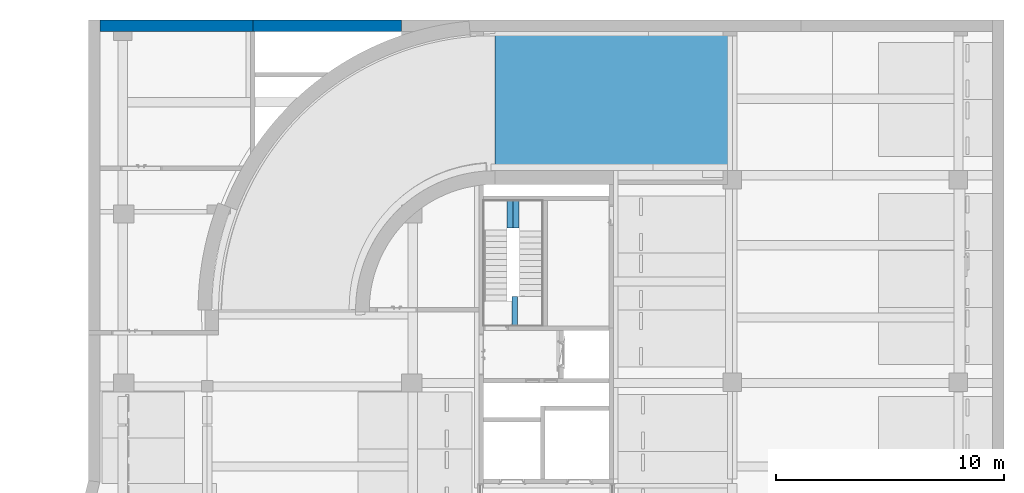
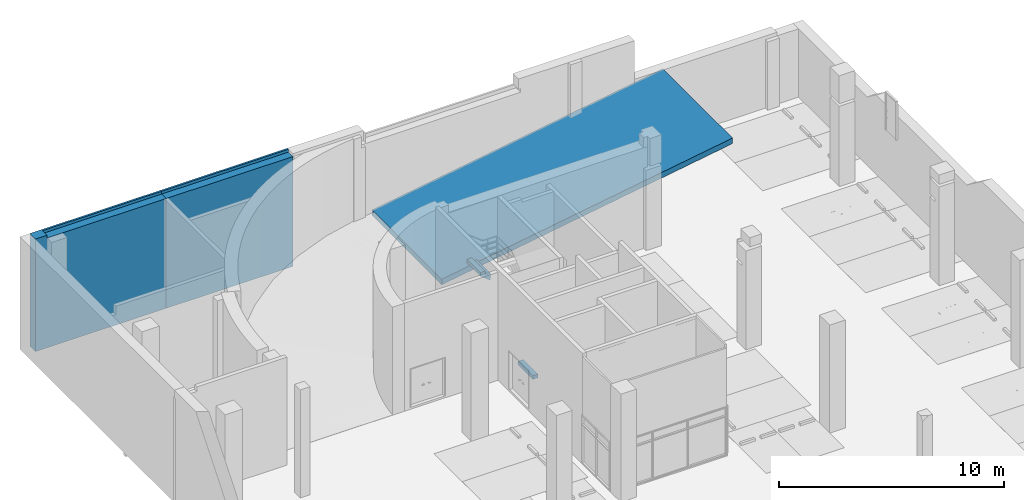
# One storey, part 15 of 29: 2 stair flights, 2 walls, 1 ramp, 1 element without a shape of its own.
"""IFC2X3 building model written with IfcOpenShell, lengths in millimetres."""

from ifc_helpers import new_model, entity, si_unit, converted_unit, derived_unit, direction, frame, frame_2d, origin, place, context, subcontext, project, spatial, polyline, rectangle, outline, extrude, clip, halfspace, faceted_brep, material, layer, layer_set, layer_usage, type_object, element, aggregate, save


model = new_model("IFC2X3")

# Units and contexts
model_context = context("Model", 3, precision=0.01, world=origin(), true_north=direction((6.123031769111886e-17, 1.0)))
body_context = subcontext(model_context, "Body", "Model", "MODEL_VIEW")
ifc_project = project(units=[si_unit("LENGTHUNIT", "METRE", prefix="MILLI"), si_unit("AREAUNIT", "SQUARE_METRE"), si_unit("VOLUMEUNIT", "CUBIC_METRE"), converted_unit("PLANEANGLEUNIT", "DEGREE", entity("IfcRatioMeasure", 0.017453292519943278), si_unit("PLANEANGLEUNIT", "RADIAN"), dimensions=[0, 0, 0, 0, 0, 0, 0]), si_unit("MASSUNIT", "GRAM", prefix="KILO"), derived_unit("MASSDENSITYUNIT", [(si_unit("MASSUNIT", "GRAM", prefix="KILO"), 1), (si_unit("LENGTHUNIT", "METRE"), -3)]), derived_unit("MOMENTOFINERTIAUNIT", [(si_unit("LENGTHUNIT", "METRE"), 4)]), si_unit("TIMEUNIT", "SECOND"), si_unit("FREQUENCYUNIT", "HERTZ"), si_unit("THERMODYNAMICTEMPERATUREUNIT", "DEGREE_CELSIUS"), derived_unit("THERMALTRANSMITTANCEUNIT", [(si_unit("MASSUNIT", "GRAM", prefix="KILO"), 1), (si_unit("THERMODYNAMICTEMPERATUREUNIT", "KELVIN"), -1), (si_unit("TIMEUNIT", "SECOND"), -3)]), derived_unit("VOLUMETRICFLOWRATEUNIT", [(si_unit("LENGTHUNIT", "METRE"), 3), (si_unit("TIMEUNIT", "SECOND"), -1)]), derived_unit("MASSFLOWRATEUNIT", [(si_unit("MASSUNIT", "GRAM", prefix="KILO"), 1), (si_unit("TIMEUNIT", "SECOND"), -1)]), derived_unit("ROTATIONALFREQUENCYUNIT", [(si_unit("TIMEUNIT", "SECOND"), -1)]), si_unit("ELECTRICCURRENTUNIT", "AMPERE"), si_unit("ELECTRICVOLTAGEUNIT", "VOLT"), si_unit("POWERUNIT", "WATT"), si_unit("FORCEUNIT", "NEWTON", prefix="KILO"), si_unit("ILLUMINANCEUNIT", "LUX"), si_unit("LUMINOUSFLUXUNIT", "LUMEN"), si_unit("LUMINOUSINTENSITYUNIT", "CANDELA"), derived_unit("USERDEFINED", [(si_unit("MASSUNIT", "GRAM", prefix="KILO"), -1), (si_unit("LENGTHUNIT", "METRE"), -2), (si_unit("TIMEUNIT", "SECOND"), 3), (si_unit("LUMINOUSFLUXUNIT", "LUMEN"), 1)]), derived_unit("SOUNDPOWERUNIT", [(si_unit("MASSUNIT", "GRAM", prefix="KILO"), 1), (si_unit("LENGTHUNIT", "METRE"), 2), (si_unit("TIMEUNIT", "SECOND"), -3)]), derived_unit("SOUNDPRESSUREUNIT", [(si_unit("MASSUNIT", "GRAM", prefix="KILO"), 1), (si_unit("LENGTHUNIT", "METRE"), -1), (si_unit("TIMEUNIT", "SECOND"), -2)]), derived_unit("LINEARVELOCITYUNIT", [(si_unit("LENGTHUNIT", "METRE"), 1), (si_unit("TIMEUNIT", "SECOND"), -1)]), si_unit("PRESSUREUNIT", "PASCAL"), derived_unit("USERDEFINED", [(si_unit("LENGTHUNIT", "METRE"), -2), (si_unit("MASSUNIT", "GRAM", prefix="KILO"), 1), (si_unit("TIMEUNIT", "SECOND"), -2)]), derived_unit("LINEARFORCEUNIT", [(si_unit("MASSUNIT", "GRAM", prefix="KILO"), 1), (si_unit("LENGTHUNIT", "METRE"), 1), (si_unit("TIMEUNIT", "SECOND"), -2), (si_unit("LENGTHUNIT", "METRE"), -1)]), derived_unit("PLANARFORCEUNIT", [(si_unit("MASSUNIT", "GRAM", prefix="KILO"), 1), (si_unit("LENGTHUNIT", "METRE"), 1), (si_unit("TIMEUNIT", "SECOND"), -2), (si_unit("LENGTHUNIT", "METRE"), -2)])], contexts=[model_context])

# Site, building, storey
site_placement = place(None, frame((-14167.972527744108, -657.2125860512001, 0.0)))
site = spatial("IfcSite", under=ifc_project, at=site_placement, Name="Default", CompositionType="ELEMENT")
building_placement = place(site_placement, origin())
building = spatial("IfcBuilding", under=site, at=building_placement, Name="Sample Building", CompositionType="ELEMENT")
storey_placement = place(building_placement, frame((0.0, 0.0, -6100.0)))
storey = spatial("IfcBuildingStorey", under=building, at=storey_placement, Name="지하1층", CompositionType="ELEMENT", Elevation=-6099.999999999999)

# Walls
ifc_material = material(Name="KBIMS-콘크리트")
ifc_layer_1 = layer(ifc_material, 500.00000000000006)
ifc_layer_set_1 = layer_set([ifc_layer_1], Name="기본 벽:WA111-철근콘크리트구조 벽 500mm_BW5")
wall_type = type_object("IfcWallType", Name="기본 벽:WA111-철근콘크리트구조 벽 500mm_BW5", PredefinedType="STANDARD", material=ifc_layer_set_1)
wall_1_placement = place(storey_placement, frame((13467.972491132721, 35607.21230798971, 0.0)))
element("IfcWall", 1, at=wall_1_placement, inside=storey, type_object=wall_type, Name="기본 벽:WA111-철근콘크리트구조 벽 500mm_BW5", ObjectType="기본 벽:WA111-철근콘크리트구조 벽 500mm_BW5", context=body_context, shape_type="Brep", body=[
    faceted_brep([(0.0, -250.0, 0.0), (599.9826140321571, -250.0, 0.0), (1399.9826140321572, -250.0, 0.0), (6600.0, -250.0, 0.0), (6700.0, -250.0, 0.0), (6700.0, -250.0, 5950.0), (6600.0, -250.0, 5950.0), (4995.688282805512, -250.0, 5950.0), (4594.876294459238, -250.0, 5950.0), (4512.317982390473, -250.0, 5950.0), (1399.9826140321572, -250.0, 5950.0), (599.9999633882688, -250.0, 5950.0), (599.9999633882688, -250.0, 6100.0), (0.0, -250.0, 6100.0), (0.0, -250.0, 160.0), (6700.0, 250.0, 0.0), (0.0, 250.0, 0.0), (0.0, 250.0, 6100.0), (4563.001294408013, 250.0, 6100.0), (4963.813282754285, 250.0, 6100.0), (6700.0, 250.0, 6100.0), (599.9999633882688, 149.99998715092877, 6100.0), (6700.0, 149.99998715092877, 6100.0), (6700.0, 149.99998715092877, 5950.0), (599.9999633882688, 149.99998715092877, 5950.0)], [[[0, 1, 2, 3, 4, 5, 6, 7, 8, 9, 10, 11, 12, 13, 14]], [[15, 16, 17, 18, 19, 20]], [[4, 3, 2, 1, 0, 16, 15]], [[20, 19, 18, 17, 13, 12, 21, 22]], [[0, 14, 13, 17, 16]], [[4, 15, 20, 22, 23, 5]], [[24, 11, 10, 9, 8, 7, 6, 5, 23]], [[24, 21, 12, 11]], [[21, 24, 23, 22]]]),
])
wall_2_placement = place(storey_placement, frame((20167.97249113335, 35607.21230798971, 0.0)))
element("IfcWall", 2, at=wall_2_placement, inside=storey, type_object=wall_type, Name="기본 벽:WA111-철근콘크리트구조 벽 500mm_BW5", ObjectType="기본 벽:WA111-철근콘크리트구조 벽 500mm_BW5", context=body_context, shape_type="Brep", body=[
    faceted_brep([(0.0, -250.0, 0.0), (100.0, -250.0, 0.0), (6500.0, -250.0, 0.0), (6500.0, -250.0, 5950.0), (100.0, -250.0, 5950.0), (0.0, -250.0, 5950.0), (6500.0, 250.0, 0.0), (0.0, 250.0, 0.0), (0.0, 250.0, 6100.0), (6500.0, 250.0, 6100.0), (6500.0, 149.99998715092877, 6100.0), (6500.0, 149.99998715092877, 5950.0), (0.0, 149.99998715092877, 6100.0), (0.0, 149.99998715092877, 5950.0)], [[[0, 1, 2, 3, 4, 5]], [[6, 7, 8, 9]], [[2, 1, 0, 7, 6]], [[6, 9, 10, 11, 3, 2]], [[9, 8, 12, 10]], [[11, 13, 5, 4, 3]], [[13, 11, 10, 12]], [[7, 0, 5, 13, 12, 8]]]),
])

# Stair, stair flights
stair_placement = place(storey_placement, origin())
stair = element("IfcStair", 3, at=stair_placement, inside=storey, Name="현장타설 계단:계단", ObjectType="현장타설 계단:ST111-철근콘크리트구조 계단 (U형)", ShapeType="NOTDEFINED")
stair_flight_type_1 = type_object("IfcStairFlightType", Name="일체형 계단진행:일체형 계단진행 150mm_철근콘크리트", PredefinedType="STRAIGHT")
stair_flight_1_placement = place(stair_placement, origin())
stair_flight_1 = element("IfcStairFlight", 4, at=stair_flight_1_placement, type_object=stair_flight_type_1, material=ifc_material, Name="현장타설 계단:계단:5961117 Run 1", ObjectType="일체형 계단진행:일체형 계단진행 150mm_철근콘크리트", NumberOfRiser=2, NumberOfTreads=1, RiserHeight=0.6671041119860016, TreadLength=0.8530183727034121, context=body_context, shape_type="SweptSolid", body=[
    extrude(outline(polyline([(-119.41802562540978, -107.30154100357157), (71.00543583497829, -107.30154100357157), (83.91530770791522, -90.79383598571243), (83.91530770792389, 152.69845899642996), (-119.41802562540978, 152.69845899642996), (-119.41802562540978, -107.30154100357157)])), frame((31660.67095012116, 22457.212311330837, 83.91530770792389), z_axis=(0.0, 1.0, 0.0), x_axis=(0.0, 0.0, -1.0)), (0.0, 0.0, 1.0), 1299.9653164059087),
])
stair_flight_type_2 = type_object("IfcStairFlightType", Name="일체형 계단진행:일체형 계단진행 150mm_철근콘크리트", PredefinedType="STRAIGHT")
stair_flight_2_placement = place(stair_placement, frame((31296.149175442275, 26757.21230798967, 0.0)))
stair_flight_2 = element("IfcStairFlight", 5, at=stair_flight_2_placement, type_object=stair_flight_type_2, material=ifc_material, Name="현장타설 계단:계단:5961117 Run 3", ObjectType="일체형 계단진행:일체형 계단진행 150mm_철근콘크리트", NumberOfRiser=3, NumberOfTreads=2, RiserHeight=0.6671041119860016, TreadLength=0.8530183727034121, context=body_context, shape_type="Brep", body=[
    faceted_brep([(520.0, 0.0, 3050.0), (520.0, 1200.0, 3050.0), (468.3109837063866, 1200.0, 3050.0), (260.0, 1200.0, 3050.0), (260.0, 0.0, 3050.0), (468.3109837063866, 0.0, 3050.0), (260.0, 0.0, 2859.576538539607), (468.3109837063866, 0.0, 2696.666666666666), (520.0, 0.0, 2696.666666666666), (520.0, 0.0, 2846.666666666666), (520.0, 1200.0, 2696.666666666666), (520.0, 1200.0, 2846.666666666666), (468.3109837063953, 1200.0, 2696.66666666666), (260.0, 1200.0, 2859.576538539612), (0.0, 0.0, 3253.333333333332), (260.0, 0.0, 3253.333333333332), (260.0, 1200.0, 3253.333333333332), (0.0, 1200.0, 3253.333333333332), (0.0, 0.0, 3062.909871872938), (0.0, 1200.0, 3062.9098718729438)], [[[0, 1, 2, 3, 4, 5]], [[4, 6, 7, 8, 9, 0, 5]], [[1, 0, 9, 8, 10, 11]], [[1, 11, 10, 12, 13, 3, 2]], [[14, 15, 16, 17]], [[15, 14, 18, 6, 4]], [[16, 15, 4, 3]], [[17, 16, 3, 13, 19]], [[14, 17, 19, 18]], [[12, 7, 6, 18, 19, 13]], [[7, 12, 10, 8]]]),
])
aggregate(stair, [stair_flight_1, stair_flight_2])

# Ramp
ifc_layer_2 = layer(ifc_material, 300.0)
ifc_layer_set_2 = layer_set([ifc_layer_2], Name="바닥:RP111-철근콘크리트구조 램프 (직선형) 300mm")
ifc_layer_usage = layer_usage(ifc_layer_set_2, "AXIS3", "POSITIVE", 0.0)
ramp_placement = place(storey_placement, origin())
element("IfcRamp", 6, at=ramp_placement, inside=storey, material=ifc_layer_usage, Name="바닥:RP111-철근콘크리트구조 램프 (직선형) 300mm", ObjectType="바닥:RP111-철근콘크리트구조 램프 (직선형) 300mm", ShapeType="STRAIGHT_RUN_RAMP", context=body_context, shape_type="SweptSolid", body=[
    clip(clip(extrude(rectangle(XDim=15097.647695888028, YDim=6200.000000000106, at=frame_2d((2.0463630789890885e-12, 6.821210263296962e-12), x_axis=(0.0, 1.0))), frame((38217.55621540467, 32357.212307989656, 2782.500000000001), z_axis=(0.1612834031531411, 0.0, -0.9869081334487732), x_axis=(0.0, 1.0, 0.0)), (0.0, -0.1612834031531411, 0.9869081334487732), 303.9796611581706), halfspace(frame((38217.55621540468, 32357.21230798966, 2482.5000000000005), z_axis=(0.16128340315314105, 0.0, -0.9869081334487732), x_axis=(0.9869081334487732, 0.0, 0.16128340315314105)), False)), halfspace(frame((38217.55621540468, 32357.21230798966, 2782.5000000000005), z_axis=(-0.16128340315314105, 0.0, 0.9869081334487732), x_axis=(0.9869081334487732, 0.0, 0.16128340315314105)), False)),
])

save(model, "model.ifc")
